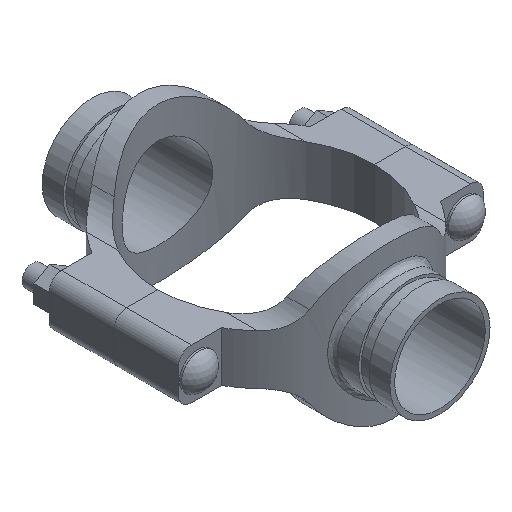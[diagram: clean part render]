
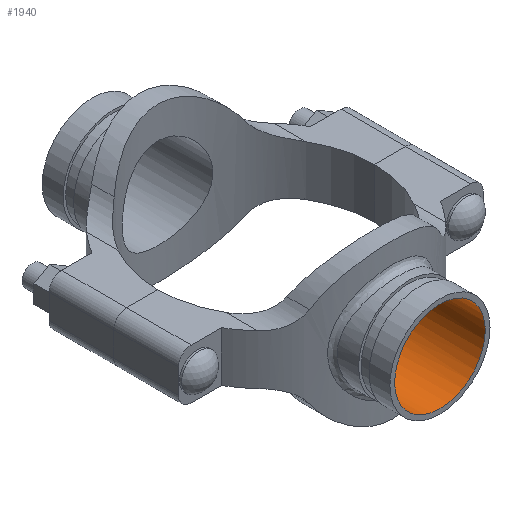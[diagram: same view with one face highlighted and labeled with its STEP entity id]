
A CAD part, isometric view. The second image highlights one B-rep face of the part: STEP entity #1940.
In plain terms, the highlighted cylindrical face has radius 34.493 mm (diameter 68.986 mm), a full revolution.
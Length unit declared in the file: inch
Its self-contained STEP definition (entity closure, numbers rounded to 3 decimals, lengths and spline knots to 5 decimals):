
#48=B_SPLINE_CURVE_WITH_KNOTS('',3,(#3956,#3957,#3958,#3959,#3960,#3961,
#3962,#3963,#3964,#3965,#3966,#3967,#3968,#3969,#3970,#3971,#3972,#3973,
#3974,#3975,#3976,#3977,#3978,#3979,#3980,#3981,#3982,#3983,#3984,#3985,
#3986,#3987,#3988,#3989,#3990,#3991,#3992,#3993,#3994,#3995,#3996,#3997,
#3998,#3999,#4000,#4001,#4002,#4003,#4004,#4005,#4006,#4007,#4008,#4009,
#4010,#4011,#4012,#4013,#4014,#4015,#4016,#4017,#4018,#4019,#4020,#4021),
 .UNSPECIFIED.,.T.,.F.,(4,2,2,2,2,2,2,2,2,2,2,2,2,2,2,2,2,2,2,2,2,2,2,2,
2,2,2,2,2,2,2,2,4),(0.,0.65894,1.31787,1.97681,
2.63574,3.29387,3.952,4.61013,5.26826,
5.92639,6.58452,7.24265,7.90078,8.55972,
9.21865,9.87759,10.53652,11.19546,11.8544,
12.51333,13.17227,13.8304,14.48853,15.14666,
15.80479,16.46292,17.12105,17.77918,18.4373,
19.09624,19.75518,20.41411,21.07305),
 .UNSPECIFIED.);
#91=CYLINDRICAL_SURFACE('',#2173,1.358);
#206=FACE_OUTER_BOUND('',#326,.T.);
#326=EDGE_LOOP('',(#1556,#1557,#1558,#1559));
#474=LINE('',#3955,#620);
#620=VECTOR('',#2628,1.358);
#720=CIRCLE('',#2174,1.358);
#881=VERTEX_POINT('',#3952);
#882=VERTEX_POINT('',#3954);
#1120=EDGE_CURVE('',#881,#881,#720,.T.);
#1121=EDGE_CURVE('',#881,#882,#474,.T.);
#1122=EDGE_CURVE('',#882,#882,#48,.T.);
#1556=ORIENTED_EDGE('',*,*,#1120,.F.);
#1557=ORIENTED_EDGE('',*,*,#1121,.T.);
#1558=ORIENTED_EDGE('',*,*,#1122,.F.);
#1559=ORIENTED_EDGE('',*,*,#1121,.F.);
#1940=ADVANCED_FACE('',(#206),#91,.F.);
#2173=AXIS2_PLACEMENT_3D('',#3951,#2624,#2625);
#2174=AXIS2_PLACEMENT_3D('',#3953,#2626,#2627);
#2624=DIRECTION('center_axis',(0.,-1.,0.));
#2625=DIRECTION('ref_axis',(-1.,0.,0.));
#2626=DIRECTION('center_axis',(0.,-1.,0.));
#2627=DIRECTION('ref_axis',(-1.,0.,0.));
#2628=DIRECTION('',(0.,-1.,0.));
#3951=CARTESIAN_POINT('Origin',(0.,5.21,0.));
#3952=CARTESIAN_POINT('',(1.358,5.21,0.));
#3953=CARTESIAN_POINT('Origin',(0.,5.21,0.));
#3954=CARTESIAN_POINT('',(1.358,2.95268,0.));
#3955=CARTESIAN_POINT('',(1.358,5.21,0.));
#3956=CARTESIAN_POINT('Ctrl Pts',(1.358,2.95268,0.));
#3957=CARTESIAN_POINT('Ctrl Pts',(1.358,2.95268,-0.08647));
#3958=CARTESIAN_POINT('Ctrl Pts',(1.34961,2.95659,-0.1755));
#3959=CARTESIAN_POINT('Ctrl Pts',(1.3147,2.97227,-0.35185));
#3960=CARTESIAN_POINT('Ctrl Pts',(1.2882,2.98403,-0.43917));
#3961=CARTESIAN_POINT('Ctrl Pts',(1.21861,3.01312,-0.60607));
#3962=CARTESIAN_POINT('Ctrl Pts',(1.17547,3.03044,-0.6858));
#3963=CARTESIAN_POINT('Ctrl Pts',(1.07616,3.06711,-0.83302));
#3964=CARTESIAN_POINT('Ctrl Pts',(1.01999,3.08643,-0.90052));
#3965=CARTESIAN_POINT('Ctrl Pts',(0.90059,3.12335,-1.01991));
#3966=CARTESIAN_POINT('Ctrl Pts',(0.83313,3.14231,-1.07608));
#3967=CARTESIAN_POINT('Ctrl Pts',(0.68589,3.1777,-1.17542));
#3968=CARTESIAN_POINT('Ctrl Pts',(0.60611,3.1941,-1.2186));
#3969=CARTESIAN_POINT('Ctrl Pts',(0.4391,3.22131,-1.28823));
#3970=CARTESIAN_POINT('Ctrl Pts',(0.35172,3.23212,-1.31474));
#3971=CARTESIAN_POINT('Ctrl Pts',(0.17536,3.24647,-1.34963));
#3972=CARTESIAN_POINT('Ctrl Pts',(0.08637,3.25,-1.358));
#3973=CARTESIAN_POINT('Ctrl Pts',(-0.08637,3.25,-1.358));
#3974=CARTESIAN_POINT('Ctrl Pts',(-0.17536,3.24647,-1.34963));
#3975=CARTESIAN_POINT('Ctrl Pts',(-0.35172,3.23212,-1.31474));
#3976=CARTESIAN_POINT('Ctrl Pts',(-0.4391,3.22131,-1.28823));
#3977=CARTESIAN_POINT('Ctrl Pts',(-0.60611,3.1941,-1.2186));
#3978=CARTESIAN_POINT('Ctrl Pts',(-0.68589,3.1777,-1.17542));
#3979=CARTESIAN_POINT('Ctrl Pts',(-0.83313,3.14231,-1.07608));
#3980=CARTESIAN_POINT('Ctrl Pts',(-0.90059,3.12335,-1.01991));
#3981=CARTESIAN_POINT('Ctrl Pts',(-1.01999,3.08643,-0.90052));
#3982=CARTESIAN_POINT('Ctrl Pts',(-1.07616,3.06711,-0.83302));
#3983=CARTESIAN_POINT('Ctrl Pts',(-1.17547,3.03044,-0.6858));
#3984=CARTESIAN_POINT('Ctrl Pts',(-1.21861,3.01312,-0.60607));
#3985=CARTESIAN_POINT('Ctrl Pts',(-1.2882,2.98403,-0.43917));
#3986=CARTESIAN_POINT('Ctrl Pts',(-1.3147,2.97227,-0.35185));
#3987=CARTESIAN_POINT('Ctrl Pts',(-1.34961,2.95659,-0.1755));
#3988=CARTESIAN_POINT('Ctrl Pts',(-1.358,2.95268,-0.08647));
#3989=CARTESIAN_POINT('Ctrl Pts',(-1.358,2.95268,0.08647));
#3990=CARTESIAN_POINT('Ctrl Pts',(-1.34961,2.95659,0.1755));
#3991=CARTESIAN_POINT('Ctrl Pts',(-1.3147,2.97227,0.35185));
#3992=CARTESIAN_POINT('Ctrl Pts',(-1.2882,2.98403,0.43917));
#3993=CARTESIAN_POINT('Ctrl Pts',(-1.21861,3.01312,0.60607));
#3994=CARTESIAN_POINT('Ctrl Pts',(-1.17547,3.03044,0.6858));
#3995=CARTESIAN_POINT('Ctrl Pts',(-1.07616,3.06711,0.83302));
#3996=CARTESIAN_POINT('Ctrl Pts',(-1.01999,3.08643,0.90052));
#3997=CARTESIAN_POINT('Ctrl Pts',(-0.90059,3.12335,1.01991));
#3998=CARTESIAN_POINT('Ctrl Pts',(-0.83313,3.14231,1.07608));
#3999=CARTESIAN_POINT('Ctrl Pts',(-0.68589,3.1777,1.17542));
#4000=CARTESIAN_POINT('Ctrl Pts',(-0.60611,3.1941,1.2186));
#4001=CARTESIAN_POINT('Ctrl Pts',(-0.4391,3.22131,1.28823));
#4002=CARTESIAN_POINT('Ctrl Pts',(-0.35172,3.23212,1.31474));
#4003=CARTESIAN_POINT('Ctrl Pts',(-0.17536,3.24647,1.34963));
#4004=CARTESIAN_POINT('Ctrl Pts',(-0.08637,3.25,1.358));
#4005=CARTESIAN_POINT('Ctrl Pts',(0.08637,3.25,1.358));
#4006=CARTESIAN_POINT('Ctrl Pts',(0.17536,3.24647,1.34963));
#4007=CARTESIAN_POINT('Ctrl Pts',(0.35172,3.23212,1.31474));
#4008=CARTESIAN_POINT('Ctrl Pts',(0.4391,3.22131,1.28823));
#4009=CARTESIAN_POINT('Ctrl Pts',(0.60611,3.1941,1.2186));
#4010=CARTESIAN_POINT('Ctrl Pts',(0.68589,3.1777,1.17542));
#4011=CARTESIAN_POINT('Ctrl Pts',(0.83313,3.14231,1.07608));
#4012=CARTESIAN_POINT('Ctrl Pts',(0.90059,3.12335,1.01991));
#4013=CARTESIAN_POINT('Ctrl Pts',(1.01999,3.08643,0.90052));
#4014=CARTESIAN_POINT('Ctrl Pts',(1.07616,3.06711,0.83302));
#4015=CARTESIAN_POINT('Ctrl Pts',(1.17547,3.03044,0.6858));
#4016=CARTESIAN_POINT('Ctrl Pts',(1.21861,3.01312,0.60607));
#4017=CARTESIAN_POINT('Ctrl Pts',(1.2882,2.98403,0.43917));
#4018=CARTESIAN_POINT('Ctrl Pts',(1.3147,2.97227,0.35185));
#4019=CARTESIAN_POINT('Ctrl Pts',(1.34961,2.95659,0.1755));
#4020=CARTESIAN_POINT('Ctrl Pts',(1.358,2.95268,0.08647));
#4021=CARTESIAN_POINT('Ctrl Pts',(1.358,2.95268,0.));
